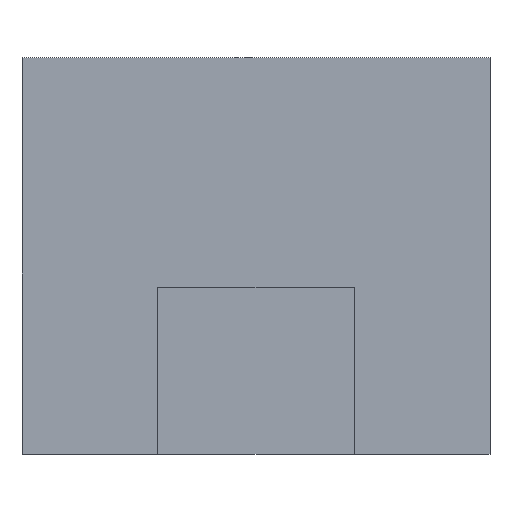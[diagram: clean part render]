
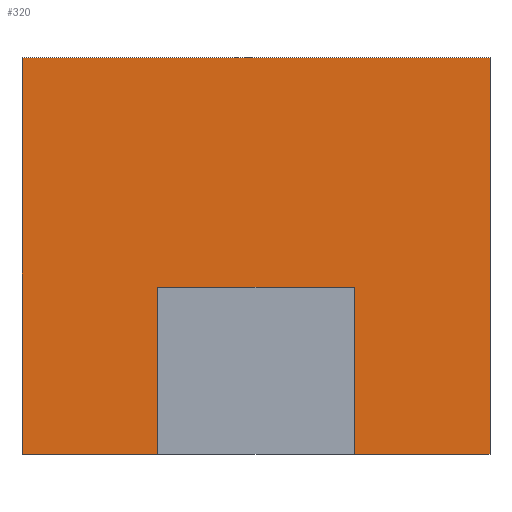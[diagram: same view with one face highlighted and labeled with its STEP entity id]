
A CAD part, top view. The second image highlights one B-rep face of the part: STEP entity #320.
In plain terms, the highlighted planar face has unit normal (0, 0, 1).
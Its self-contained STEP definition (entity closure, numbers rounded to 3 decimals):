
#24 = VERTEX_POINT('',#25);
#25 = CARTESIAN_POINT('',(-10.5,-8.9,1.6));
#32 = PLANE('',#33);
#33 = AXIS2_PLACEMENT_3D('',#34,#35,#36);
#34 = CARTESIAN_POINT('',(-10.5,-8.9,0.));
#35 = DIRECTION('',(1.,0.,0.));
#36 = DIRECTION('',(0.,0.,1.));
#44 = PLANE('',#45);
#45 = AXIS2_PLACEMENT_3D('',#46,#47,#48);
#46 = CARTESIAN_POINT('',(-10.5,-8.9,0.));
#47 = DIRECTION('',(0.,1.,0.));
#48 = DIRECTION('',(0.,0.,1.));
#85 = VERTEX_POINT('',#86);
#86 = CARTESIAN_POINT('',(-10.5,8.9,1.6));
#100 = PLANE('',#101);
#101 = AXIS2_PLACEMENT_3D('',#102,#103,#104);
#102 = CARTESIAN_POINT('',(-10.5,8.9,0.));
#103 = DIRECTION('',(0.,1.,0.));
#104 = DIRECTION('',(0.,0.,1.));
#112 = EDGE_CURVE('',#24,#85,#113,.T.);
#113 = SURFACE_CURVE('',#114,(#118,#125),.PCURVE_S1.);
#114 = LINE('',#115,#116);
#115 = CARTESIAN_POINT('',(-10.5,-8.9,1.6));
#116 = VECTOR('',#117,1.);
#117 = DIRECTION('',(0.,1.,0.));
#118 = PCURVE('',#32,#119);
#119 = DEFINITIONAL_REPRESENTATION('',(#120),#124);
#120 = LINE('',#121,#122);
#121 = CARTESIAN_POINT('',(1.6,0.));
#122 = VECTOR('',#123,1.);
#123 = DIRECTION('',(0.,-1.));
#124 = ( GEOMETRIC_REPRESENTATION_CONTEXT(2) 
PARAMETRIC_REPRESENTATION_CONTEXT() REPRESENTATION_CONTEXT('2D SPACE',''
  ) );
#125 = PCURVE('',#126,#131);
#126 = PLANE('',#127);
#127 = AXIS2_PLACEMENT_3D('',#128,#129,#130);
#128 = CARTESIAN_POINT('',(-10.5,-8.9,1.6));
#129 = DIRECTION('',(0.,0.,1.));
#130 = DIRECTION('',(1.,0.,0.));
#131 = DEFINITIONAL_REPRESENTATION('',(#132),#136);
#132 = LINE('',#133,#134);
#133 = CARTESIAN_POINT('',(0.,0.));
#134 = VECTOR('',#135,1.);
#135 = DIRECTION('',(0.,1.));
#136 = ( GEOMETRIC_REPRESENTATION_CONTEXT(2) 
PARAMETRIC_REPRESENTATION_CONTEXT() REPRESENTATION_CONTEXT('2D SPACE',''
  ) );
#165 = EDGE_CURVE('',#24,#166,#168,.T.);
#166 = VERTEX_POINT('',#167);
#167 = CARTESIAN_POINT('',(-4.4,-8.9,1.6));
#168 = SURFACE_CURVE('',#169,(#173,#180),.PCURVE_S1.);
#169 = LINE('',#170,#171);
#170 = CARTESIAN_POINT('',(-10.5,-8.9,1.6));
#171 = VECTOR('',#172,1.);
#172 = DIRECTION('',(1.,0.,0.));
#173 = PCURVE('',#44,#174);
#174 = DEFINITIONAL_REPRESENTATION('',(#175),#179);
#175 = LINE('',#176,#177);
#176 = CARTESIAN_POINT('',(1.6,0.));
#177 = VECTOR('',#178,1.);
#178 = DIRECTION('',(0.,1.));
#179 = ( GEOMETRIC_REPRESENTATION_CONTEXT(2) 
PARAMETRIC_REPRESENTATION_CONTEXT() REPRESENTATION_CONTEXT('2D SPACE',''
  ) );
#180 = PCURVE('',#126,#181);
#181 = DEFINITIONAL_REPRESENTATION('',(#182),#186);
#182 = LINE('',#183,#184);
#183 = CARTESIAN_POINT('',(0.,0.));
#184 = VECTOR('',#185,1.);
#185 = DIRECTION('',(1.,0.));
#186 = ( GEOMETRIC_REPRESENTATION_CONTEXT(2) 
PARAMETRIC_REPRESENTATION_CONTEXT() REPRESENTATION_CONTEXT('2D SPACE',''
  ) );
#204 = PLANE('',#205);
#205 = AXIS2_PLACEMENT_3D('',#206,#207,#208);
#206 = CARTESIAN_POINT('',(-4.4,-8.9,1.6));
#207 = DIRECTION('',(1.,0.,0.));
#208 = DIRECTION('',(0.,0.,1.));
#245 = VERTEX_POINT('',#246);
#246 = CARTESIAN_POINT('',(4.4,-8.9,1.6));
#260 = PLANE('',#261);
#261 = AXIS2_PLACEMENT_3D('',#262,#263,#264);
#262 = CARTESIAN_POINT('',(4.4,-8.9,1.6));
#263 = DIRECTION('',(1.,0.,0.));
#264 = DIRECTION('',(0.,0.,1.));
#272 = EDGE_CURVE('',#245,#273,#275,.T.);
#273 = VERTEX_POINT('',#274);
#274 = CARTESIAN_POINT('',(10.5,-8.9,1.6));
#275 = SURFACE_CURVE('',#276,(#280,#287),.PCURVE_S1.);
#276 = LINE('',#277,#278);
#277 = CARTESIAN_POINT('',(-10.5,-8.9,1.6));
#278 = VECTOR('',#279,1.);
#279 = DIRECTION('',(1.,0.,0.));
#280 = PCURVE('',#44,#281);
#281 = DEFINITIONAL_REPRESENTATION('',(#282),#286);
#282 = LINE('',#283,#284);
#283 = CARTESIAN_POINT('',(1.6,0.));
#284 = VECTOR('',#285,1.);
#285 = DIRECTION('',(0.,1.));
#286 = ( GEOMETRIC_REPRESENTATION_CONTEXT(2) 
PARAMETRIC_REPRESENTATION_CONTEXT() REPRESENTATION_CONTEXT('2D SPACE',''
  ) );
#287 = PCURVE('',#126,#288);
#288 = DEFINITIONAL_REPRESENTATION('',(#289),#293);
#289 = LINE('',#290,#291);
#290 = CARTESIAN_POINT('',(0.,0.));
#291 = VECTOR('',#292,1.);
#292 = DIRECTION('',(1.,0.));
#293 = ( GEOMETRIC_REPRESENTATION_CONTEXT(2) 
PARAMETRIC_REPRESENTATION_CONTEXT() REPRESENTATION_CONTEXT('2D SPACE',''
  ) );
#309 = PLANE('',#310);
#310 = AXIS2_PLACEMENT_3D('',#311,#312,#313);
#311 = CARTESIAN_POINT('',(10.5,-8.9,0.));
#312 = DIRECTION('',(1.,0.,0.));
#313 = DIRECTION('',(0.,0.,1.));
#320 = ADVANCED_FACE('',(#321),#126,.T.);
#321 = FACE_BOUND('',#322,.T.);
#322 = EDGE_LOOP('',(#323,#346,#347,#348,#371,#399,#420,#421));
#323 = ORIENTED_EDGE('',*,*,#324,.F.);
#324 = EDGE_CURVE('',#85,#325,#327,.T.);
#325 = VERTEX_POINT('',#326);
#326 = CARTESIAN_POINT('',(10.5,8.9,1.6));
#327 = SURFACE_CURVE('',#328,(#332,#339),.PCURVE_S1.);
#328 = LINE('',#329,#330);
#329 = CARTESIAN_POINT('',(-10.5,8.9,1.6));
#330 = VECTOR('',#331,1.);
#331 = DIRECTION('',(1.,0.,0.));
#332 = PCURVE('',#126,#333);
#333 = DEFINITIONAL_REPRESENTATION('',(#334),#338);
#334 = LINE('',#335,#336);
#335 = CARTESIAN_POINT('',(0.,17.8));
#336 = VECTOR('',#337,1.);
#337 = DIRECTION('',(1.,0.));
#338 = ( GEOMETRIC_REPRESENTATION_CONTEXT(2) 
PARAMETRIC_REPRESENTATION_CONTEXT() REPRESENTATION_CONTEXT('2D SPACE',''
  ) );
#339 = PCURVE('',#100,#340);
#340 = DEFINITIONAL_REPRESENTATION('',(#341),#345);
#341 = LINE('',#342,#343);
#342 = CARTESIAN_POINT('',(1.6,0.));
#343 = VECTOR('',#344,1.);
#344 = DIRECTION('',(0.,1.));
#345 = ( GEOMETRIC_REPRESENTATION_CONTEXT(2) 
PARAMETRIC_REPRESENTATION_CONTEXT() REPRESENTATION_CONTEXT('2D SPACE',''
  ) );
#346 = ORIENTED_EDGE('',*,*,#112,.F.);
#347 = ORIENTED_EDGE('',*,*,#165,.T.);
#348 = ORIENTED_EDGE('',*,*,#349,.T.);
#349 = EDGE_CURVE('',#166,#350,#352,.T.);
#350 = VERTEX_POINT('',#351);
#351 = CARTESIAN_POINT('',(-4.4,-1.4,1.6));
#352 = SURFACE_CURVE('',#353,(#357,#364),.PCURVE_S1.);
#353 = LINE('',#354,#355);
#354 = CARTESIAN_POINT('',(-4.4,-8.9,1.6));
#355 = VECTOR('',#356,1.);
#356 = DIRECTION('',(0.,1.,0.));
#357 = PCURVE('',#126,#358);
#358 = DEFINITIONAL_REPRESENTATION('',(#359),#363);
#359 = LINE('',#360,#361);
#360 = CARTESIAN_POINT('',(6.1,0.));
#361 = VECTOR('',#362,1.);
#362 = DIRECTION('',(0.,1.));
#363 = ( GEOMETRIC_REPRESENTATION_CONTEXT(2) 
PARAMETRIC_REPRESENTATION_CONTEXT() REPRESENTATION_CONTEXT('2D SPACE',''
  ) );
#364 = PCURVE('',#204,#365);
#365 = DEFINITIONAL_REPRESENTATION('',(#366),#370);
#366 = LINE('',#367,#368);
#367 = CARTESIAN_POINT('',(0.,0.));
#368 = VECTOR('',#369,1.);
#369 = DIRECTION('',(0.,-1.));
#370 = ( GEOMETRIC_REPRESENTATION_CONTEXT(2) 
PARAMETRIC_REPRESENTATION_CONTEXT() REPRESENTATION_CONTEXT('2D SPACE',''
  ) );
#371 = ORIENTED_EDGE('',*,*,#372,.T.);
#372 = EDGE_CURVE('',#350,#373,#375,.T.);
#373 = VERTEX_POINT('',#374);
#374 = CARTESIAN_POINT('',(4.4,-1.4,1.6));
#375 = SURFACE_CURVE('',#376,(#380,#387),.PCURVE_S1.);
#376 = LINE('',#377,#378);
#377 = CARTESIAN_POINT('',(-4.4,-1.4,1.6));
#378 = VECTOR('',#379,1.);
#379 = DIRECTION('',(1.,0.,0.));
#380 = PCURVE('',#126,#381);
#381 = DEFINITIONAL_REPRESENTATION('',(#382),#386);
#382 = LINE('',#383,#384);
#383 = CARTESIAN_POINT('',(6.1,7.5));
#384 = VECTOR('',#385,1.);
#385 = DIRECTION('',(1.,0.));
#386 = ( GEOMETRIC_REPRESENTATION_CONTEXT(2) 
PARAMETRIC_REPRESENTATION_CONTEXT() REPRESENTATION_CONTEXT('2D SPACE',''
  ) );
#387 = PCURVE('',#388,#393);
#388 = PLANE('',#389);
#389 = AXIS2_PLACEMENT_3D('',#390,#391,#392);
#390 = CARTESIAN_POINT('',(-4.4,-1.4,1.6));
#391 = DIRECTION('',(0.,1.,0.));
#392 = DIRECTION('',(0.,0.,1.));
#393 = DEFINITIONAL_REPRESENTATION('',(#394),#398);
#394 = LINE('',#395,#396);
#395 = CARTESIAN_POINT('',(0.,0.));
#396 = VECTOR('',#397,1.);
#397 = DIRECTION('',(0.,1.));
#398 = ( GEOMETRIC_REPRESENTATION_CONTEXT(2) 
PARAMETRIC_REPRESENTATION_CONTEXT() REPRESENTATION_CONTEXT('2D SPACE',''
  ) );
#399 = ORIENTED_EDGE('',*,*,#400,.F.);
#400 = EDGE_CURVE('',#245,#373,#401,.T.);
#401 = SURFACE_CURVE('',#402,(#406,#413),.PCURVE_S1.);
#402 = LINE('',#403,#404);
#403 = CARTESIAN_POINT('',(4.4,-8.9,1.6));
#404 = VECTOR('',#405,1.);
#405 = DIRECTION('',(0.,1.,0.));
#406 = PCURVE('',#126,#407);
#407 = DEFINITIONAL_REPRESENTATION('',(#408),#412);
#408 = LINE('',#409,#410);
#409 = CARTESIAN_POINT('',(14.9,0.));
#410 = VECTOR('',#411,1.);
#411 = DIRECTION('',(0.,1.));
#412 = ( GEOMETRIC_REPRESENTATION_CONTEXT(2) 
PARAMETRIC_REPRESENTATION_CONTEXT() REPRESENTATION_CONTEXT('2D SPACE',''
  ) );
#413 = PCURVE('',#260,#414);
#414 = DEFINITIONAL_REPRESENTATION('',(#415),#419);
#415 = LINE('',#416,#417);
#416 = CARTESIAN_POINT('',(0.,0.));
#417 = VECTOR('',#418,1.);
#418 = DIRECTION('',(0.,-1.));
#419 = ( GEOMETRIC_REPRESENTATION_CONTEXT(2) 
PARAMETRIC_REPRESENTATION_CONTEXT() REPRESENTATION_CONTEXT('2D SPACE',''
  ) );
#420 = ORIENTED_EDGE('',*,*,#272,.T.);
#421 = ORIENTED_EDGE('',*,*,#422,.T.);
#422 = EDGE_CURVE('',#273,#325,#423,.T.);
#423 = SURFACE_CURVE('',#424,(#428,#435),.PCURVE_S1.);
#424 = LINE('',#425,#426);
#425 = CARTESIAN_POINT('',(10.5,-8.9,1.6));
#426 = VECTOR('',#427,1.);
#427 = DIRECTION('',(0.,1.,0.));
#428 = PCURVE('',#126,#429);
#429 = DEFINITIONAL_REPRESENTATION('',(#430),#434);
#430 = LINE('',#431,#432);
#431 = CARTESIAN_POINT('',(21.,0.));
#432 = VECTOR('',#433,1.);
#433 = DIRECTION('',(0.,1.));
#434 = ( GEOMETRIC_REPRESENTATION_CONTEXT(2) 
PARAMETRIC_REPRESENTATION_CONTEXT() REPRESENTATION_CONTEXT('2D SPACE',''
  ) );
#435 = PCURVE('',#309,#436);
#436 = DEFINITIONAL_REPRESENTATION('',(#437),#441);
#437 = LINE('',#438,#439);
#438 = CARTESIAN_POINT('',(1.6,0.));
#439 = VECTOR('',#440,1.);
#440 = DIRECTION('',(0.,-1.));
#441 = ( GEOMETRIC_REPRESENTATION_CONTEXT(2) 
PARAMETRIC_REPRESENTATION_CONTEXT() REPRESENTATION_CONTEXT('2D SPACE',''
  ) );
